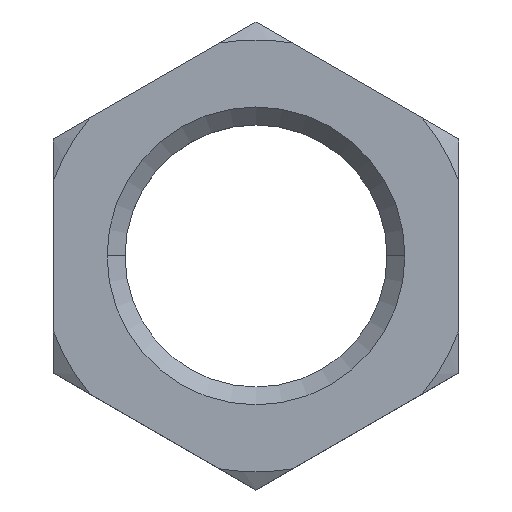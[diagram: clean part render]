
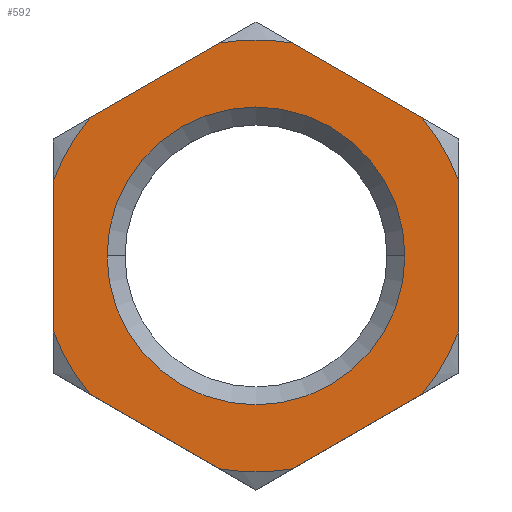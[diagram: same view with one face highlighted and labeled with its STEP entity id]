
A CAD part, top view. The second image highlights one B-rep face of the part: STEP entity #592.
In plain terms, the highlighted planar face has unit normal (0, 0, 1).
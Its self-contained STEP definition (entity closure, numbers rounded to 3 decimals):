
#6 = ORIENTED_EDGE ( 'NONE', *, *, #160, .F. ) ;
#17 = DIRECTION ( 'NONE',  ( 0., 0., -1. ) ) ;
#23 = DIRECTION ( 'NONE',  ( -1., 0., 0. ) ) ;
#39 = DIRECTION ( 'NONE',  ( 0., 0., -1. ) ) ;
#59 = DIRECTION ( 'NONE',  ( 0., 0., -1. ) ) ;
#67 = VERTEX_POINT ( 'NONE', #591 ) ;
#76 = VECTOR ( 'NONE', #880, 1000. ) ;
#83 = VERTEX_POINT ( 'NONE', #799 ) ;
#86 = FACE_OUTER_BOUND ( 'NONE', #293, .T. ) ;
#99 = LINE ( 'NONE', #141, #837 ) ;
#100 = PLANE ( 'NONE',  #346 ) ;
#105 = AXIS2_PLACEMENT_3D ( 'NONE', #660, #17, #310 ) ;
#106 = CARTESIAN_POINT ( 'NONE',  ( 0., 0., 4.95 ) ) ;
#109 = EDGE_CURVE ( 'NONE', #260, #652, #326, .T. ) ;
#112 = CARTESIAN_POINT ( 'NONE',  ( 0., 19.63, 4.95 ) ) ;
#121 = VERTEX_POINT ( 'NONE', #597 ) ;
#128 = EDGE_CURVE ( 'NONE', #83, #495, #525, .T. ) ;
#130 = DIRECTION ( 'NONE',  ( 0.866, -0.5, 0. ) ) ;
#133 = CARTESIAN_POINT ( 'NONE',  ( 13.956, -11.572, 4.95 ) ) ;
#134 = EDGE_LOOP ( 'NONE', ( #484, #896 ) ) ;
#137 = CARTESIAN_POINT ( 'NONE',  ( -3.044, -17.873, 4.95 ) ) ;
#139 = ORIENTED_EDGE ( 'NONE', *, *, #333, .T. ) ;
#141 = CARTESIAN_POINT ( 'NONE',  ( -17., -9.815, 4.95 ) ) ;
#146 = CARTESIAN_POINT ( 'NONE',  ( 0., 0., 4.95 ) ) ;
#148 = VECTOR ( 'NONE', #632, 1000. ) ;
#160 = EDGE_CURVE ( 'NONE', #83, #560, #356, .T. ) ;
#161 = CARTESIAN_POINT ( 'NONE',  ( 0., -19.63, 4.95 ) ) ;
#165 = DIRECTION ( 'NONE',  ( 0.866, 0.5, 0. ) ) ;
#167 = AXIS2_PLACEMENT_3D ( 'NONE', #271, #902, #339 ) ;
#169 = ORIENTED_EDGE ( 'NONE', *, *, #109, .F. ) ;
#170 = CARTESIAN_POINT ( 'NONE',  ( 0., 0., 4.95 ) ) ;
#173 = DIRECTION ( 'NONE',  ( 0., -1., 0. ) ) ;
#182 = CARTESIAN_POINT ( 'NONE',  ( 17., 9.815, 4.95 ) ) ;
#194 = DIRECTION ( 'NONE',  ( -0.866, -0.5, 0. ) ) ;
#198 = EDGE_CURVE ( 'NONE', #616, #869, #487, .T. ) ;
#221 = CARTESIAN_POINT ( 'NONE',  ( 17., -9.815, 4.95 ) ) ;
#229 = ORIENTED_EDGE ( 'NONE', *, *, #749, .F. ) ;
#241 = ORIENTED_EDGE ( 'NONE', *, *, #481, .T. ) ;
#244 = LINE ( 'NONE', #605, #287 ) ;
#247 = DIRECTION ( 'NONE',  ( 0., 0., 1. ) ) ;
#249 = CARTESIAN_POINT ( 'NONE',  ( -13.956, -11.572, 4.95 ) ) ;
#252 = VECTOR ( 'NONE', #194, 1000. ) ;
#260 = VERTEX_POINT ( 'NONE', #690 ) ;
#268 = AXIS2_PLACEMENT_3D ( 'NONE', #106, #39, #549 ) ;
#271 = CARTESIAN_POINT ( 'NONE',  ( 0., 0., 4.95 ) ) ;
#287 = VECTOR ( 'NONE', #173, 1000. ) ;
#293 = EDGE_LOOP ( 'NONE', ( #711, #849, #169, #139, #675, #692, #229, #471, #594, #241, #6, #874 ) ) ;
#302 = AXIS2_PLACEMENT_3D ( 'NONE', #796, #653, #23 ) ;
#310 = DIRECTION ( 'NONE',  ( 1., 0., 0. ) ) ;
#316 = CIRCLE ( 'NONE', #268, 18.13 ) ;
#326 = CIRCLE ( 'NONE', #302, 18.13 ) ;
#330 = CARTESIAN_POINT ( 'NONE',  ( 3.044, 17.873, 4.95 ) ) ;
#331 = CARTESIAN_POINT ( 'NONE',  ( 0., 0., 4.95 ) ) ;
#333 = EDGE_CURVE ( 'NONE', #260, #869, #743, .T. ) ;
#339 = DIRECTION ( 'NONE',  ( -1., 0., 0. ) ) ;
#346 = AXIS2_PLACEMENT_3D ( 'NONE', #170, #247, #452 ) ;
#356 = CIRCLE ( 'NONE', #501, 18.13 ) ;
#367 = VERTEX_POINT ( 'NONE', #249 ) ;
#368 = CIRCLE ( 'NONE', #105, 12.5 ) ;
#376 = EDGE_CURVE ( 'NONE', #121, #571, #368, .T. ) ;
#413 = DIRECTION ( 'NONE',  ( 1., 0., 0. ) ) ;
#429 = CARTESIAN_POINT ( 'NONE',  ( 12.5, 0., 4.95 ) ) ;
#430 = CIRCLE ( 'NONE', #167, 18.13 ) ;
#433 = EDGE_CURVE ( 'NONE', #616, #518, #436, .T. ) ;
#436 = LINE ( 'NONE', #112, #252 ) ;
#440 = CARTESIAN_POINT ( 'NONE',  ( 0., 0., 4.95 ) ) ;
#452 = DIRECTION ( 'NONE',  ( 1., 0., 0. ) ) ;
#464 = CIRCLE ( 'NONE', #666, 12.5 ) ;
#471 = ORIENTED_EDGE ( 'NONE', *, *, #593, .T. ) ;
#475 = AXIS2_PLACEMENT_3D ( 'NONE', #146, #731, #720 ) ;
#481 = EDGE_CURVE ( 'NONE', #367, #560, #99, .T. ) ;
#484 = ORIENTED_EDGE ( 'NONE', *, *, #678, .T. ) ;
#487 = CIRCLE ( 'NONE', #475, 18.13 ) ;
#495 = VERTEX_POINT ( 'NONE', #133 ) ;
#501 = AXIS2_PLACEMENT_3D ( 'NONE', #440, #519, #656 ) ;
#502 = CARTESIAN_POINT ( 'NONE',  ( 0., 0., 4.95 ) ) ;
#518 = VERTEX_POINT ( 'NONE', #909 ) ;
#519 = DIRECTION ( 'NONE',  ( 0., 0., -1. ) ) ;
#525 = LINE ( 'NONE', #161, #562 ) ;
#537 = EDGE_CURVE ( 'NONE', #710, #652, #610, .T. ) ;
#549 = DIRECTION ( 'NONE',  ( -1., 0., 0. ) ) ;
#559 = CARTESIAN_POINT ( 'NONE',  ( 17., -6.3, 4.95 ) ) ;
#560 = VERTEX_POINT ( 'NONE', #137 ) ;
#561 = VERTEX_POINT ( 'NONE', #635 ) ;
#562 = VECTOR ( 'NONE', #165, 1000. ) ;
#565 = EDGE_CURVE ( 'NONE', #367, #67, #646, .T. ) ;
#571 = VERTEX_POINT ( 'NONE', #429 ) ;
#591 = CARTESIAN_POINT ( 'NONE',  ( -17., -6.3, 4.95 ) ) ;
#592 = ADVANCED_FACE ( 'NONE', ( #705, #86 ), #100, .T. ) ;
#593 = EDGE_CURVE ( 'NONE', #561, #67, #244, .T. ) ;
#594 = ORIENTED_EDGE ( 'NONE', *, *, #565, .F. ) ;
#597 = CARTESIAN_POINT ( 'NONE',  ( -12.5, 0., 4.95 ) ) ;
#605 = CARTESIAN_POINT ( 'NONE',  ( -17., 9.815, 4.95 ) ) ;
#610 = LINE ( 'NONE', #221, #148 ) ;
#616 = VERTEX_POINT ( 'NONE', #751 ) ;
#618 = CARTESIAN_POINT ( 'NONE',  ( 17., 6.3, 4.95 ) ) ;
#632 = DIRECTION ( 'NONE',  ( 0., 1., 0. ) ) ;
#635 = CARTESIAN_POINT ( 'NONE',  ( -17., 6.3, 4.95 ) ) ;
#646 = CIRCLE ( 'NONE', #758, 18.13 ) ;
#652 = VERTEX_POINT ( 'NONE', #618 ) ;
#653 = DIRECTION ( 'NONE',  ( 0., 0., -1. ) ) ;
#656 = DIRECTION ( 'NONE',  ( -1., 0., 0. ) ) ;
#660 = CARTESIAN_POINT ( 'NONE',  ( 0., 0., 4.95 ) ) ;
#666 = AXIS2_PLACEMENT_3D ( 'NONE', #331, #831, #413 ) ;
#675 = ORIENTED_EDGE ( 'NONE', *, *, #198, .F. ) ;
#678 = EDGE_CURVE ( 'NONE', #571, #121, #464, .T. ) ;
#690 = CARTESIAN_POINT ( 'NONE',  ( 13.956, 11.572, 4.95 ) ) ;
#692 = ORIENTED_EDGE ( 'NONE', *, *, #433, .T. ) ;
#705 = FACE_BOUND ( 'NONE', #134, .T. ) ;
#710 = VERTEX_POINT ( 'NONE', #559 ) ;
#711 = ORIENTED_EDGE ( 'NONE', *, *, #811, .F. ) ;
#720 = DIRECTION ( 'NONE',  ( -1., 0., 0. ) ) ;
#721 = DIRECTION ( 'NONE',  ( -1., 0., 0. ) ) ;
#731 = DIRECTION ( 'NONE',  ( 0., 0., -1. ) ) ;
#743 = LINE ( 'NONE', #182, #76 ) ;
#749 = EDGE_CURVE ( 'NONE', #561, #518, #430, .T. ) ;
#751 = CARTESIAN_POINT ( 'NONE',  ( -3.044, 17.873, 4.95 ) ) ;
#758 = AXIS2_PLACEMENT_3D ( 'NONE', #502, #59, #721 ) ;
#796 = CARTESIAN_POINT ( 'NONE',  ( 0., 0., 4.95 ) ) ;
#799 = CARTESIAN_POINT ( 'NONE',  ( 3.044, -17.873, 4.95 ) ) ;
#811 = EDGE_CURVE ( 'NONE', #710, #495, #316, .T. ) ;
#831 = DIRECTION ( 'NONE',  ( 0., 0., -1. ) ) ;
#837 = VECTOR ( 'NONE', #130, 1000. ) ;
#849 = ORIENTED_EDGE ( 'NONE', *, *, #537, .T. ) ;
#869 = VERTEX_POINT ( 'NONE', #330 ) ;
#874 = ORIENTED_EDGE ( 'NONE', *, *, #128, .T. ) ;
#880 = DIRECTION ( 'NONE',  ( -0.866, 0.5, 0. ) ) ;
#896 = ORIENTED_EDGE ( 'NONE', *, *, #376, .T. ) ;
#902 = DIRECTION ( 'NONE',  ( 0., 0., -1. ) ) ;
#909 = CARTESIAN_POINT ( 'NONE',  ( -13.956, 11.572, 4.95 ) ) ;
